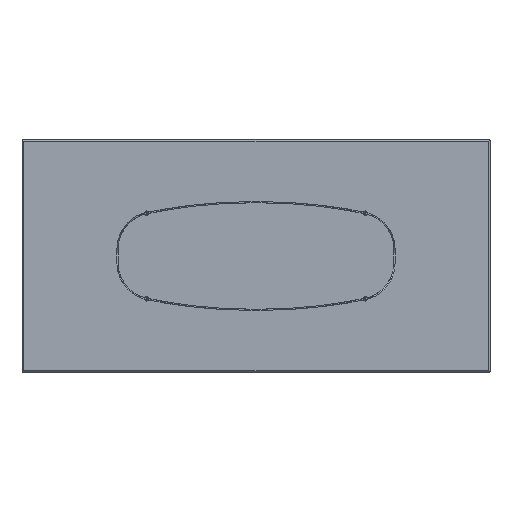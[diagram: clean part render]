
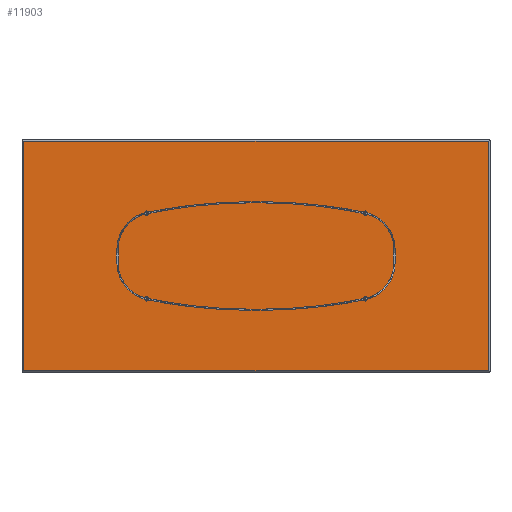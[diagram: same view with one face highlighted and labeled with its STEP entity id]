
A CAD part, front view. The second image highlights one B-rep face of the part: STEP entity #11903.
In plain terms, the highlighted planar face has unit normal (0, -1, 0).
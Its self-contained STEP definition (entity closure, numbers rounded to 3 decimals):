
#370 = DIRECTION ( 'NONE',  ( -1., 0., 0. ) ) ;
#384 = VERTEX_POINT ( 'NONE', #10804 ) ;
#931 = VERTEX_POINT ( 'NONE', #8207 ) ;
#1366 = ORIENTED_EDGE ( 'NONE', *, *, #12054, .T. ) ;
#1400 = VECTOR ( 'NONE', #16560, 1000. ) ;
#1994 = ORIENTED_EDGE ( 'NONE', *, *, #8522, .T. ) ;
#2563 = CARTESIAN_POINT ( 'NONE',  ( 0., 0., 587. ) ) ;
#5039 = DIRECTION ( 'NONE',  ( 0., 1., 0. ) ) ;
#5592 = VECTOR ( 'NONE', #370, 1000. ) ;
#5788 = CARTESIAN_POINT ( 'NONE',  ( -1187., 0., -587. ) ) ;
#5817 = LINE ( 'NONE', #11052, #7545 ) ;
#7479 = LINE ( 'NONE', #11416, #1400 ) ;
#7545 = VECTOR ( 'NONE', #16459, 1000. ) ;
#7912 = EDGE_CURVE ( 'NONE', #931, #16106, #15706, .T. ) ;
#7922 = CARTESIAN_POINT ( 'NONE',  ( 0., 0., 0. ) ) ;
#8207 = CARTESIAN_POINT ( 'NONE',  ( -1187., 0., 587. ) ) ;
#8522 = EDGE_CURVE ( 'NONE', #16106, #14006, #7479, .T. ) ;
#9070 = DIRECTION ( 'NONE',  ( 0., 0., -1. ) ) ;
#9192 = LINE ( 'NONE', #2563, #5592 ) ;
#10007 = VECTOR ( 'NONE', #9070, 1000. ) ;
#10444 = FACE_OUTER_BOUND ( 'NONE', #16708, .T. ) ;
#10457 = CARTESIAN_POINT ( 'NONE',  ( -1187., 0., 0. ) ) ;
#10804 = CARTESIAN_POINT ( 'NONE',  ( 1187., 0., 587. ) ) ;
#10871 = ORIENTED_EDGE ( 'NONE', *, *, #12677, .T. ) ;
#11052 = CARTESIAN_POINT ( 'NONE',  ( 1187., 0., 0. ) ) ;
#11416 = CARTESIAN_POINT ( 'NONE',  ( 0., 0., -587. ) ) ;
#11860 = PLANE ( 'NONE',  #16452 ) ;
#11903 = ADVANCED_FACE ( 'NONE', ( #10444 ), #11860, .F. ) ;
#12054 = EDGE_CURVE ( 'NONE', #14006, #384, #5817, .T. ) ;
#12677 = EDGE_CURVE ( 'NONE', #384, #931, #9192, .T. ) ;
#13533 = CARTESIAN_POINT ( 'NONE',  ( 1187., 0., -587. ) ) ;
#14006 = VERTEX_POINT ( 'NONE', #13533 ) ;
#14366 = ORIENTED_EDGE ( 'NONE', *, *, #7912, .T. ) ;
#14638 = DIRECTION ( 'NONE',  ( 0., 0., 1. ) ) ;
#15706 = LINE ( 'NONE', #10457, #10007 ) ;
#16106 = VERTEX_POINT ( 'NONE', #5788 ) ;
#16452 = AXIS2_PLACEMENT_3D ( 'NONE', #7922, #5039, #14638 ) ;
#16459 = DIRECTION ( 'NONE',  ( 0., 0., 1. ) ) ;
#16560 = DIRECTION ( 'NONE',  ( 1., 0., 0. ) ) ;
#16708 = EDGE_LOOP ( 'NONE', ( #1366, #10871, #14366, #1994 ) ) ;
